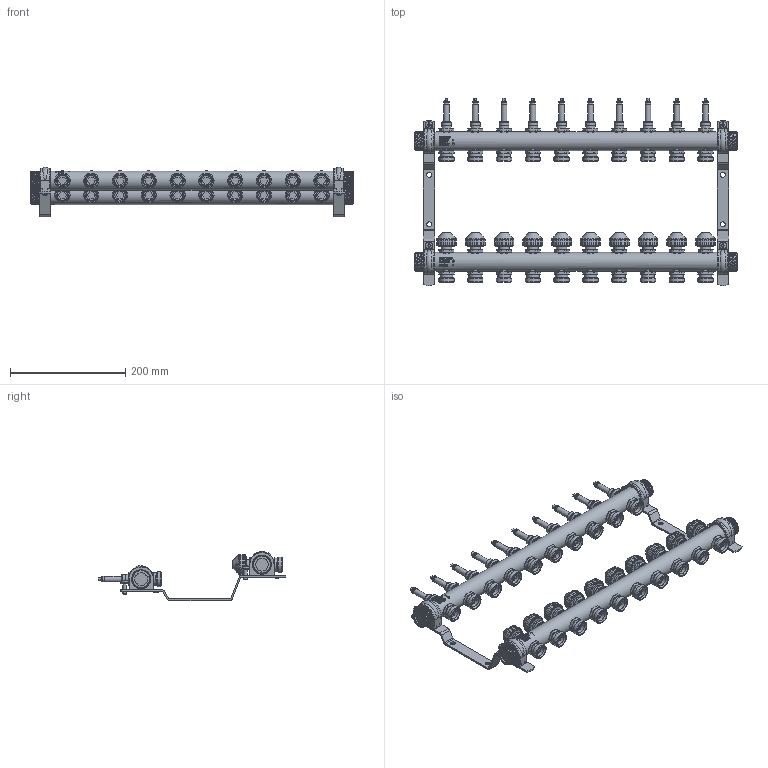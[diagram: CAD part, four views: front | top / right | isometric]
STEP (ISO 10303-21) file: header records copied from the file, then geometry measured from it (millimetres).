
FILE_DESCRIPTION((''),'2;1');
FILE_NAME('C:\Users\duckj\Desktop\10070008.stp','2017-08-01T08:07:15',('duckj'),(''),'Autodesk Inventor 2013','Autodesk Inventor 2013','');
FILE_SCHEMA(('CONFIG_CONTROL_DESIGN'));
Length unit declared in the file: millimetre
Products named in the file (4): 31072017_003-E; 26102016_005; 31072017_003-VL; 31072017_003-RL
Assembly tree (4 placements, depth 2):
  31072017_003-E
    26102016_005  x2
    31072017_003-VL
    31072017_003-RL
Bounding box: 560 x 326.05 x 85.69 mm (x, y, z)
Volume: 1447501.4 mm3; surface area: 299297.1 mm2
Topology: 4 solids, 4 shells, 3840 faces, 9997 edges, 6544 vertices
Faces by surface type: plane 1901, cylinder 985, cone 648, bspline 242, torus 60, sphere 4
Full cylindrical faces by diameter (mm): 6 x8, 8.5 x4, 9 x10, 10 x20, 12 x4, 15.5 x10, 16.5 x20, 18 x10, 18.1 x20, 18.5 x40, 22 x64, 26.441 x20, 30 x10, 33 x6, 33.7 x10
Entity records: 180465 total; most frequent: CARTESIAN_POINT 91965, ORIENTED_EDGE 18058, DIRECTION 16921, EDGE_CURVE 9029, AXIS2_PLACEMENT_3D 6501, VERTEX_POINT 6112, EDGE_LOOP 4477, VECTOR 3919
